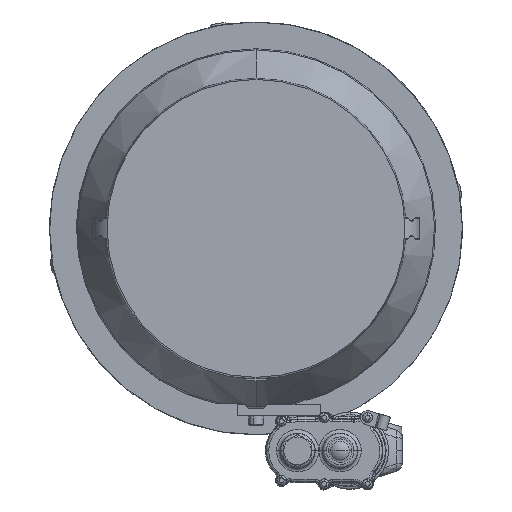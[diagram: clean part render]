
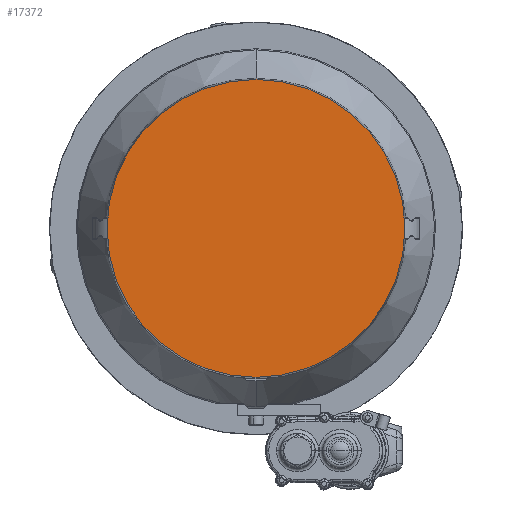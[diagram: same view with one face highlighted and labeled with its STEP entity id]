
A CAD part, left-side view. The second image highlights one B-rep face of the part: STEP entity #17372.
In plain terms, the highlighted planar face has unit normal (-1, 0, 0).
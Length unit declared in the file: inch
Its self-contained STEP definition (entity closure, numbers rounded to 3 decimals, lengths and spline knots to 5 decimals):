
#2822 = VERTEX_POINT ( 'NONE', #5351 ) ;
#4594 = CARTESIAN_POINT ( 'NONE',  ( -4.94447, 0., 0. ) ) ;
#4882 = VECTOR ( 'NONE', #29429, 39.37008 ) ;
#5118 = AXIS2_PLACEMENT_3D ( 'NONE', #16611, #36998, #19549 ) ;
#5351 = CARTESIAN_POINT ( 'NONE',  ( -4.94447, 3.41098, -1.96933 ) ) ;
#6745 = ORIENTED_EDGE ( 'NONE', *, *, #20127, .F. ) ;
#6832 = EDGE_LOOP ( 'NONE', ( #34394, #11144, #6745, #26513 ) ) ;
#7495 = DIRECTION ( 'NONE',  ( 0., 1., 0. ) ) ;
#7503 = DIRECTION ( 'NONE',  ( 0., 0.866, -0.5 ) ) ;
#8116 = CARTESIAN_POINT ( 'NONE',  ( -4.94447, 5., -4.03076 ) ) ;
#8999 = VECTOR ( 'NONE', #7503, 39.37008 ) ;
#10013 = AXIS2_PLACEMENT_3D ( 'NONE', #8116, #28482, #11075 ) ;
#11075 = DIRECTION ( 'NONE',  ( 0., 1., 0. ) ) ;
#11144 = ORIENTED_EDGE ( 'NONE', *, *, #18207, .T. ) ;
#11665 = CIRCLE ( 'NONE', #29155, 3.93868 ) ;
#11707 = LINE ( 'NONE', #26533, #4882 ) ;
#12100 = VERTEX_POINT ( 'NONE', #18658 ) ;
#15071 = VERTEX_POINT ( 'NONE', #28707 ) ;
#16611 = CARTESIAN_POINT ( 'NONE',  ( -4.94447, 0., 0. ) ) ;
#16730 = LINE ( 'NONE', #22032, #8999 ) ;
#17372 = ADVANCED_FACE ( 'NONE', ( #25565 ), #31296, .F. ) ;
#18207 = EDGE_CURVE ( 'NONE', #2822, #12100, #16730, .T. ) ;
#18658 = CARTESIAN_POINT ( 'NONE',  ( -4.94447, 3.411, -1.96934 ) ) ;
#19549 = DIRECTION ( 'NONE',  ( 0., 1., 0. ) ) ;
#19911 = EDGE_CURVE ( 'NONE', #15071, #34353, #11707, .T. ) ;
#20127 = EDGE_CURVE ( 'NONE', #34353, #12100, #11665, .T. ) ;
#22032 = CARTESIAN_POINT ( 'NONE',  ( -4.94447, 0., 0. ) ) ;
#23033 = EDGE_CURVE ( 'NONE', #2822, #15071, #35479, .T. ) ;
#24961 = DIRECTION ( 'NONE',  ( 1., 0., 0. ) ) ;
#25565 = FACE_OUTER_BOUND ( 'NONE', #6832, .T. ) ;
#26513 = ORIENTED_EDGE ( 'NONE', *, *, #19911, .F. ) ;
#26533 = CARTESIAN_POINT ( 'NONE',  ( -4.94447, 0., 0. ) ) ;
#27165 = CARTESIAN_POINT ( 'NONE',  ( -4.94447, -3.411, -1.96934 ) ) ;
#28482 = DIRECTION ( 'NONE',  ( 1., 0., 0. ) ) ;
#28707 = CARTESIAN_POINT ( 'NONE',  ( -4.94447, -3.41098, -1.96933 ) ) ;
#29155 = AXIS2_PLACEMENT_3D ( 'NONE', #4594, #24961, #7495 ) ;
#29429 = DIRECTION ( 'NONE',  ( 0., -0.866, -0.5 ) ) ;
#31296 = PLANE ( 'NONE',  #10013 ) ;
#34353 = VERTEX_POINT ( 'NONE', #27165 ) ;
#34394 = ORIENTED_EDGE ( 'NONE', *, *, #23033, .F. ) ;
#35479 = CIRCLE ( 'NONE', #5118, 3.93867 ) ;
#36998 = DIRECTION ( 'NONE',  ( 1., 0., 0. ) ) ;
